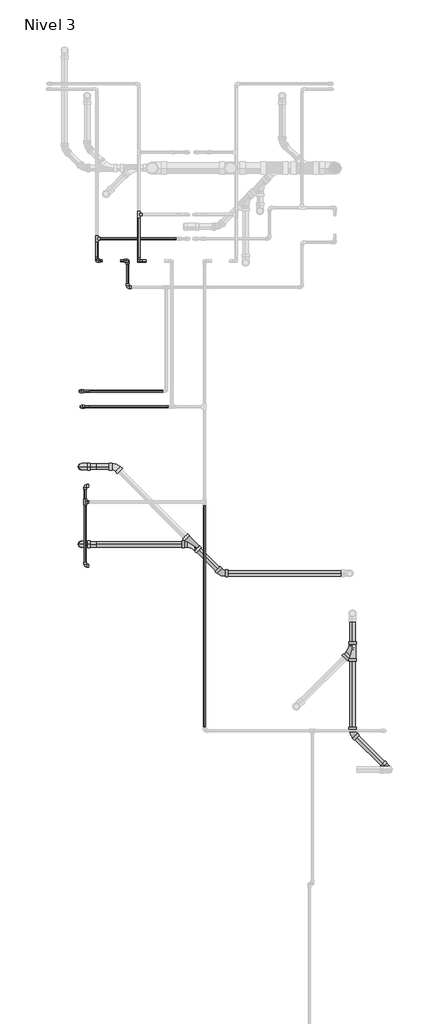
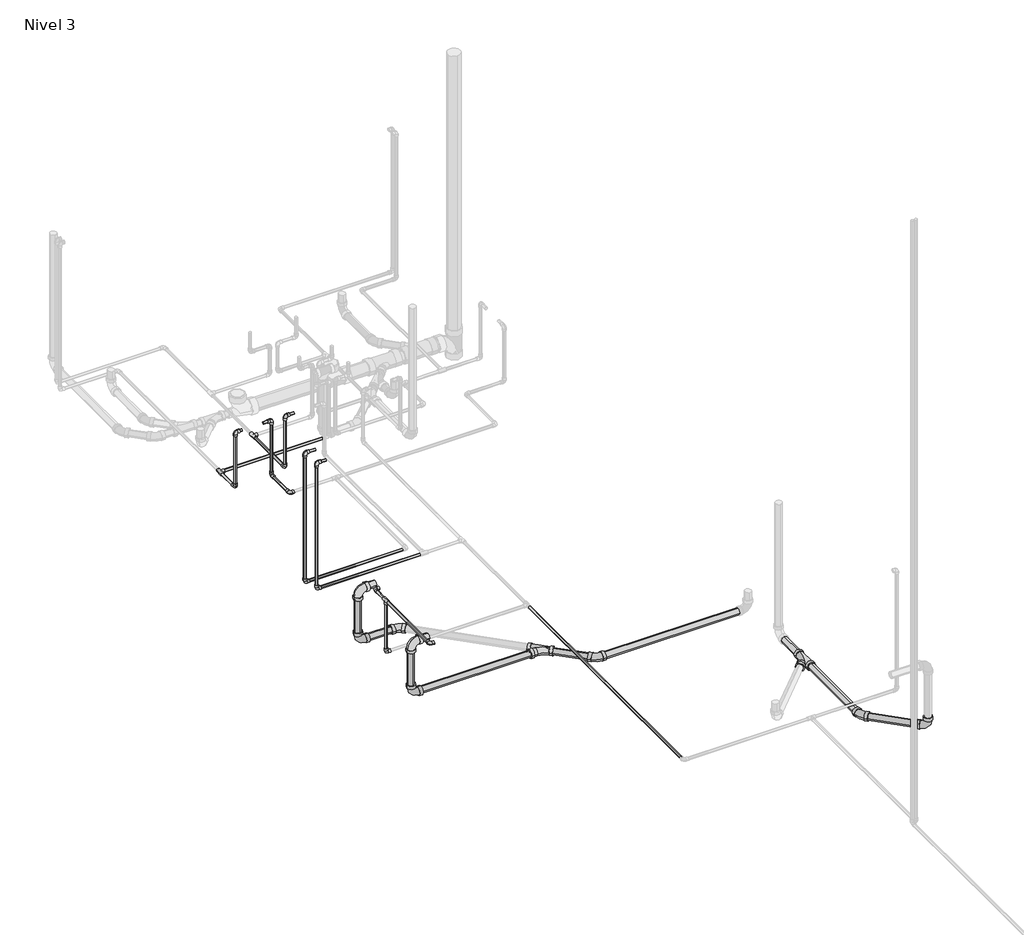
# One storey, part 6 of 9: 31 pipe segments, 27 pipe fittings.
"""IFC4 building model written with IfcOpenShell, lengths in millimetres."""

from ifc_helpers import new_model, si_unit, point, frame, frame_2d, origin, place, context, project, spatial, circle_curve, trimmed, segment, composite_curve, outline, extrude, transform, mapped, element, save
from components import pipe_fitting_ab418b84, pipe_fitting_0163322b, m_codo_pvc_serie_40_9ad74631, m_codo_pvc_serie_40_dwv1_5c0ec739, m_codo_pvc_serie_40_dwv1_6f1a2495

model = new_model("IFC4")

# Units and contexts
model_context = context("Model", 3, world=origin())
ifc_project = project(units=[si_unit("LENGTHUNIT", "METRE", prefix="MILLI")], contexts=[model_context])

# Site, building, storey
site = spatial("IfcSite", under=ifc_project)
building = spatial("IfcBuilding", under=site)
storey = spatial("IfcBuildingStorey", under=building, Name="Nivel 3", Elevation=5450.0)

# Pipe fittings
placement = place(None, origin())
pipe_fitting_shape = pipe_fitting_ab418b84(model_context)
element("IfcPipeFitting", 1, ObjectType="M_Te - PVC - Serie 40 : Estándar", at=placement, inside=storey, context=model_context, shape_type="MappedRepresentation", body=[
    mapped(pipe_fitting_shape, transform((3414.5674476, 13135.047678, 5850.0), x_axis=(0.0, -1.0, 0.0), y_axis=(0.0, 0.0, 1.0), z_axis=(-1.0, 0.0, 0.0))),
])
element("IfcPipeFitting", 2, ObjectType="M_Te - PVC - Serie 40 : Estándar", at=placement, inside=storey, context=model_context, shape_type="MappedRepresentation", body=[
    mapped(pipe_fitting_shape, transform((3940.052369, 15948.3784167, 5400.0), x_axis=(0.0, 1.0, 0.0), y_axis=(-1.0, 0.0, 0.0), z_axis=(0.0, 0.0, 1.0))),
])
element("IfcPipeFitting", 3, ObjectType="M_Te - PVC - Serie 40 : Estándar", at=placement, inside=storey, context=model_context, shape_type="MappedRepresentation", body=[
    mapped(pipe_fitting_shape, transform((3529.5674476, 15711.6215833, 5370.0), x_axis=(0.0, -1.0, 0.0), y_axis=(-1.0, 0.0, 0.0), z_axis=(0.0, 0.0, -1.0))),
])
pipe_fitting_2_shape = pipe_fitting_0163322b(model_context)
element("IfcPipeFitting", 4, ObjectType="M_Sanitario con te de reducción - PVC - Serie 40 - DWV : Estándar", at=placement, inside=storey, context=model_context, shape_type="MappedRepresentation", body=[
    mapped(pipe_fitting_2_shape, transform((6034.2551231, 11685.3518772, 5300.0), x_axis=(0.0, -1.0, 0.0), y_axis=(1.0, 0.0, 0.0), z_axis=(0.0, 0.0, 1.0))),
])
element("IfcPipeFitting", 5, ObjectType="M_Sanitario con te de reducción - PVC - Serie 40 - DWV : Estándar", at=placement, inside=storey, context=model_context, shape_type="MappedRepresentation", body=[
    mapped(pipe_fitting_2_shape, transform((4471.6264357, 12721.1279626, 5300.0), x_axis=(-0.7071067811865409, 0.7071067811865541, 0.0), y_axis=(0.7071067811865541, 0.7071067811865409, 0.0), z_axis=(0.0, 0.0, -1.0))),
])
m_codo_pvc_serie_40_shape = m_codo_pvc_serie_40_9ad74631(model_context)
element("IfcPipeFitting", 6, ObjectType="M_Codo - PVC - Serie 40 : Estándar", at=placement, inside=storey, context=model_context, shape_type="MappedRepresentation", body=[
    mapped(m_codo_pvc_serie_40_shape, transform((3414.5674476, 13135.047678, 5400.0), x_axis=(-1.0, 0.0, 0.0), y_axis=(0.0, 0.0, 1.0), z_axis=(0.0, 1.0, 0.0))),
])
element("IfcPipeFitting", 7, ObjectType="M_Codo - PVC - Serie 40 : Estándar", at=placement, inside=storey, context=model_context, shape_type="MappedRepresentation", body=[
    mapped(m_codo_pvc_serie_40_shape, transform((3414.5674476, 13295.047678, 5850.0), x_axis=(-1.0, 0.0, 0.0), y_axis=(0.0, -1.0, 0.0), z_axis=(0.0, 0.0, 1.0))),
])
element("IfcPipeFitting", 8, ObjectType="M_Codo - PVC - Serie 40 : Estándar", at=placement, inside=storey, context=model_context, shape_type="MappedRepresentation", body=[
    mapped(m_codo_pvc_serie_40_shape, transform((3414.5674476, 12509.5875218, 5850.0), x_axis=(0.0, -1.0, 0.0), y_axis=(1.0, 0.0, 0.0), z_axis=(0.0, 0.0, 1.0))),
])
element("IfcPipeFitting", 9, ObjectType="M_Codo - PVC - Serie 40 : Estándar", at=placement, inside=storey, context=model_context, shape_type="MappedRepresentation", body=[
    mapped(m_codo_pvc_serie_40_shape, transform((3940.052369, 15493.3784167, 5400.0), x_axis=(0.0, -1.0, 0.0), y_axis=(0.0, 0.0, 1.0), z_axis=(-1.0, 0.0, 0.0))),
])
element("IfcPipeFitting", 10, ObjectType="M_Codo - PVC - Serie 40 : Estándar", at=placement, inside=storey, context=model_context, shape_type="MappedRepresentation", body=[
    mapped(m_codo_pvc_serie_40_shape, transform((3940.052369, 15493.3784167, 5850.0), x_axis=(0.0, 0.0, 1.0), y_axis=(1.0, 0.0, 0.0), z_axis=(0.0, 1.0, 0.0))),
])
element("IfcPipeFitting", 11, ObjectType="M_Codo - PVC - Serie 40 : Estándar", at=placement, inside=storey, context=model_context, shape_type="MappedRepresentation", body=[
    mapped(m_codo_pvc_serie_40_shape, transform((3829.5674476, 15236.3878958, 5370.0), x_axis=(0.0, -1.0, 0.0), y_axis=(1.0, 0.0, 0.0), z_axis=(0.0, 0.0, 1.0))),
])
element("IfcPipeFitting", 12, ObjectType="M_Codo - PVC - Serie 40 : Estándar", at=placement, inside=storey, context=model_context, shape_type="MappedRepresentation", body=[
    mapped(m_codo_pvc_serie_40_shape, transform((3829.5674476, 15496.3878958, 5370.0), x_axis=(0.0, 1.0, 0.0), y_axis=(0.0, 0.0, 1.0), z_axis=(1.0, 0.0, 0.0))),
])
element("IfcPipeFitting", 13, ObjectType="M_Codo - PVC - Serie 40 : Estándar", at=placement, inside=storey, context=model_context, shape_type="MappedRepresentation", body=[
    mapped(m_codo_pvc_serie_40_shape, transform((3829.5674476, 15496.3878958, 5850.0), x_axis=(0.0, 0.0, 1.0), y_axis=(-1.0, 0.0, 0.0), z_axis=(0.0, -1.0, 0.0))),
])
element("IfcPipeFitting", 14, ObjectType="M_Codo - PVC - Serie 40 : Estándar", at=placement, inside=storey, context=model_context, shape_type="MappedRepresentation", body=[
    mapped(m_codo_pvc_serie_40_shape, transform((3529.5674476, 15496.3878958, 5850.0), x_axis=(-1.0, 0.0, 0.0), y_axis=(0.0, 0.0, -1.0), z_axis=(0.0, -1.0, 0.0))),
])
element("IfcPipeFitting", 15, ObjectType="M_Codo - PVC - Serie 40 : Estándar", at=placement, inside=storey, context=model_context, shape_type="MappedRepresentation", body=[
    mapped(m_codo_pvc_serie_40_shape, transform((3529.5674476, 15496.3878958, 5370.0), x_axis=(0.0, 0.0, -1.0), y_axis=(0.0, 1.0, 0.0), z_axis=(1.0, 0.0, 0.0))),
])
element("IfcPipeFitting", 16, ObjectType="M_Codo - PVC - Serie 40 : Estándar", at=placement, inside=storey, context=model_context, shape_type="MappedRepresentation", body=[
    mapped(m_codo_pvc_serie_40_shape, transform((3367.404854, 14218.3044589, 6500.0), x_axis=(-1.0, 0.0, 0.0), y_axis=(0.0, 0.0, -1.0), z_axis=(0.0, -1.0, 0.0))),
])
element("IfcPipeFitting", 17, ObjectType="M_Codo - PVC - Serie 40 : Estándar", at=placement, inside=storey, context=model_context, shape_type="MappedRepresentation", body=[
    mapped(m_codo_pvc_serie_40_shape, transform((3377.404854, 14068.3044589, 6500.0), x_axis=(-1.0, 0.0, 0.0), y_axis=(0.0, 0.0, -1.0), z_axis=(0.0, -1.0, 0.0))),
])
element("IfcPipeFitting", 18, ObjectType="M_Codo - PVC - Serie 40 : Estándar", at=placement, inside=storey, context=model_context, shape_type="MappedRepresentation", body=[
    mapped(m_codo_pvc_serie_40_shape, transform((3367.404854, 14218.3044589, 5370.0), x_axis=(0.0, 0.0, -1.0), y_axis=(1.0, 0.0, 0.0), z_axis=(0.0, -1.0, 0.0))),
])
element("IfcPipeFitting", 19, ObjectType="M_Codo - PVC - Serie 40 : Estándar", at=placement, inside=storey, context=model_context, shape_type="MappedRepresentation", body=[
    mapped(m_codo_pvc_serie_40_shape, transform((3377.404854, 14068.3044589, 5400.0), x_axis=(0.0, 0.0, -1.0), y_axis=(1.0, 0.0, 0.0), z_axis=(0.0, -1.0, 0.0))),
])
m_codo_pvc_serie_40_dwv1_shape = m_codo_pvc_serie_40_dwv1_5c0ec739(model_context)
element("IfcPipeFitting", 20, ObjectType="M_Codo - PVC - Serie 40 - DWV1 : Estándar 2", at=placement, inside=storey, context=model_context, shape_type="MappedRepresentation", body=[
    mapped(m_codo_pvc_serie_40_dwv1_shape, transform((6387.7966771, 10516.9594307, 5300.0), x_axis=(0.0, 0.0, -1.0), y_axis=(-0.7071067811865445, 0.7071067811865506, 0.0), z_axis=(0.7071067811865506, 0.7071067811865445, 0.0))),
])
element("IfcPipeFitting", 21, ObjectType="M_Codo - PVC - Serie 40 - DWV1 : Estándar 2", at=placement, inside=storey, context=model_context, shape_type="MappedRepresentation", body=[
    mapped(m_codo_pvc_serie_40_dwv1_shape, transform((3380.4956461, 13481.1279626, 5750.0), x_axis=(-1.0, 0.0, 0.0), y_axis=(0.0, 0.0, -1.0), z_axis=(0.0, -1.0, 0.0))),
])
element("IfcPipeFitting", 22, ObjectType="M_Codo - PVC - Serie 40 - DWV1 : Estándar 2", at=placement, inside=storey, context=model_context, shape_type="MappedRepresentation", body=[
    mapped(m_codo_pvc_serie_40_dwv1_shape, transform((3380.4956461, 13481.1279626, 5300.0), x_axis=(0.0, 0.0, -1.0), y_axis=(1.0, 0.0, 0.0), z_axis=(0.0, -1.0, 0.0))),
])
element("IfcPipeFitting", 23, ObjectType="M_Codo - PVC - Serie 40 - DWV1 : Estándar 2", at=placement, inside=storey, context=model_context, shape_type="MappedRepresentation", body=[
    mapped(m_codo_pvc_serie_40_dwv1_shape, transform((3380.4956461, 12721.1279626, 5750.0), x_axis=(-1.0, 0.0, 0.0), y_axis=(0.0, 0.0, -1.0), z_axis=(0.0, -1.0, 0.0))),
])
element("IfcPipeFitting", 24, ObjectType="M_Codo - PVC - Serie 40 - DWV1 : Estándar 2", at=placement, inside=storey, context=model_context, shape_type="MappedRepresentation", body=[
    mapped(m_codo_pvc_serie_40_dwv1_shape, transform((3380.4956461, 12721.1279626, 5300.0), x_axis=(0.0, 0.0, -1.0), y_axis=(1.0, 0.0, 0.0), z_axis=(0.0, -1.0, 0.0))),
])
m_codo_pvc_serie_40_dwv1_2_shape = m_codo_pvc_serie_40_dwv1_6f1a2495(model_context)
element("IfcPipeFitting", 25, ObjectType="M_Codo - PVC - Serie 40 - DWV1 : Estándar 2", at=placement, inside=storey, context=model_context, shape_type="MappedRepresentation", body=[
    mapped(m_codo_pvc_serie_40_dwv1_2_shape, transform((6034.2551231, 10870.5009847, 5300.0), x_axis=(0.0, -1.0, 0.0), y_axis=(1.0, 0.0, 0.0), z_axis=(0.0, 0.0, 1.0))),
])
element("IfcPipeFitting", 26, ObjectType="M_Codo - PVC - Serie 40 - DWV1 : Estándar 2", at=placement, inside=storey, context=model_context, shape_type="MappedRepresentation", body=[
    mapped(m_codo_pvc_serie_40_dwv1_2_shape, transform((3711.6264357, 13481.1279626, 5300.0), x_axis=(-0.7071067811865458, 0.7071067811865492, 0.0), y_axis=(-0.7071067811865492, -0.7071067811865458, 0.0), z_axis=(0.0, 0.0, 1.0))),
])
element("IfcPipeFitting", 27, ObjectType="M_Codo - PVC - Serie 40 - DWV1 : Estándar 2", at=placement, inside=storey, context=model_context, shape_type="MappedRepresentation", body=[
    mapped(m_codo_pvc_serie_40_dwv1_2_shape, transform((4755.8120302, 12436.942368, 5300.0), x_axis=(0.7071067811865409, -0.7071067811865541, 0.0), y_axis=(0.7071067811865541, 0.7071067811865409, 0.0), z_axis=(0.0, 0.0, 1.0))),
])

# Pipe segments
element("IfcPipeSegment", 28, ObjectType="Tuberia PVC Agua Fria", at=placement, inside=storey, context=model_context, shape_type="SweptSolid", body=[
    extrude(outline(composite_curve([segment(trimmed(circle_curve(frame_2d((5400.0, 4584.5674476)), 10.31875), [point((5400.0, 4594.8861976))], [point((5410.31875, 4584.5674476))], False, "CARTESIAN"), True, "CONTINUOUS"), segment(trimmed(circle_curve(frame_2d((5400.0, 4584.5674476)), 10.31875), [point((5410.31875, 4584.5674476))], [point((5400.0, 4574.2486976))], False, "CARTESIAN"), True, "CONTINUOUS"), segment(trimmed(circle_curve(frame_2d((5400.0, 4584.5674476)), 10.31875), [point((5400.0, 4574.2486976))], [point((5389.68125, 4584.5674476))], False, "CARTESIAN"), True, "CONTINUOUS"), segment(trimmed(circle_curve(frame_2d((5400.0, 4584.5674476)), 10.31875), [point((5389.68125, 4584.5674476))], [point((5400.0, 4594.8861976))], False, "CARTESIAN"), True, "CONTINUOUS")], self_intersect=False)), frame((0.0, 10930.4191394, 0.0), z_axis=(0.0, 1.0, 0.0), x_axis=(0.0, 0.0, 1.0)), (0.0, 0.0, 1.0), 2174.1683824),
])
element("IfcPipeSegment", 29, ObjectType="Tuberia PVC Agua Fria", at=placement, inside=storey, context=model_context, shape_type="SweptSolid", body=[
    extrude(outline(composite_curve([segment(trimmed(circle_curve(frame_2d((5850.0, 3414.5674476)), 10.31875), [point((5850.0, 3424.8861976))], [point((5860.31875, 3414.5674476))], False, "CARTESIAN"), True, "CONTINUOUS"), segment(trimmed(circle_curve(frame_2d((5850.0, 3414.5674476)), 10.31875), [point((5860.31875, 3414.5674476))], [point((5850.0, 3404.2486976))], False, "CARTESIAN"), True, "CONTINUOUS"), segment(trimmed(circle_curve(frame_2d((5850.0, 3414.5674476)), 10.31875), [point((5850.0, 3404.2486976))], [point((5839.68125, 3414.5674476))], False, "CARTESIAN"), True, "CONTINUOUS"), segment(trimmed(circle_curve(frame_2d((5850.0, 3414.5674476)), 10.31875), [point((5839.68125, 3414.5674476))], [point((5850.0, 3424.8861976))], False, "CARTESIAN"), True, "CONTINUOUS")], self_intersect=False)), frame((0.0, 13165.5078343, 0.0), z_axis=(0.0, 1.0, 0.0), x_axis=(0.0, 0.0, 1.0)), (0.0, 0.0, 1.0), 96.1388438),
])
element("IfcPipeSegment", 30, ObjectType="Tuberia PVC Agua Fria", at=placement, inside=storey, context=model_context, shape_type="SweptSolid", body=[
    extrude(outline(composite_curve([segment(trimmed(circle_curve(frame_2d((3414.5674476, 13135.047678)), 10.31875), [point((3404.2486976, 13135.047678))], [point((3414.5674476, 13145.366428))], False, "CARTESIAN"), True, "CONTINUOUS"), segment(trimmed(circle_curve(frame_2d((3414.5674476, 13135.047678)), 10.31875), [point((3414.5674476, 13145.366428))], [point((3424.8861976, 13135.047678))], False, "CARTESIAN"), True, "CONTINUOUS"), segment(trimmed(circle_curve(frame_2d((3414.5674476, 13135.047678)), 10.31875), [point((3424.8861976, 13135.047678))], [point((3414.5674476, 13124.728928))], False, "CARTESIAN"), True, "CONTINUOUS"), segment(trimmed(circle_curve(frame_2d((3414.5674476, 13135.047678)), 10.31875), [point((3414.5674476, 13124.728928))], [point((3404.2486976, 13135.047678))], False, "CARTESIAN"), True, "CONTINUOUS")], self_intersect=False)), frame((0.0, 0.0, 5433.401), z_axis=(0.0, 0.0, 1.0), x_axis=(1.0, 0.0, 0.0)), (0.0, 0.0, 1.0), 386.1388438),
])
element("IfcPipeSegment", 31, ObjectType="Tuberia PVC Agua Fria", at=placement, inside=storey, context=model_context, shape_type="SweptSolid", body=[
    extrude(outline(composite_curve([segment(trimmed(circle_curve(frame_2d((5850.0, 3414.5674476)), 10.31875), [point((5850.0, 3404.2486976))], [point((5839.68125, 3414.5674476))], False, "CARTESIAN"), True, "CONTINUOUS"), segment(trimmed(circle_curve(frame_2d((5850.0, 3414.5674476)), 10.31875), [point((5839.68125, 3414.5674476))], [point((5850.0, 3424.8861976))], False, "CARTESIAN"), True, "CONTINUOUS"), segment(trimmed(circle_curve(frame_2d((5850.0, 3414.5674476)), 10.31875), [point((5850.0, 3424.8861976))], [point((5860.31875, 3414.5674476))], False, "CARTESIAN"), True, "CONTINUOUS"), segment(trimmed(circle_curve(frame_2d((5850.0, 3414.5674476)), 10.31875), [point((5860.31875, 3414.5674476))], [point((5850.0, 3404.2486976))], False, "CARTESIAN"), True, "CONTINUOUS")], self_intersect=False)), frame((0.0, 12542.9885218, 0.0), z_axis=(0.0, 1.0, 0.0), x_axis=(0.0, 0.0, 1.0)), (0.0, 0.0, 1.0), 561.599),
])
element("IfcPipeSegment", 32, ObjectType="Tuberia PVC Agua Fria", at=placement, inside=storey, context=model_context, shape_type="SweptSolid", body=[
    extrude(outline(composite_curve([segment(trimmed(circle_curve(frame_2d((5400.0, 3940.052369)), 10.31875), [point((5400.0, 3929.733619))], [point((5389.68125, 3940.052369))], False, "CARTESIAN"), True, "CONTINUOUS"), segment(trimmed(circle_curve(frame_2d((5400.0, 3940.052369)), 10.31875), [point((5389.68125, 3940.052369))], [point((5400.0, 3950.371119))], False, "CARTESIAN"), True, "CONTINUOUS"), segment(trimmed(circle_curve(frame_2d((5400.0, 3940.052369)), 10.31875), [point((5400.0, 3950.371119))], [point((5410.31875, 3940.052369))], False, "CARTESIAN"), True, "CONTINUOUS"), segment(trimmed(circle_curve(frame_2d((5400.0, 3940.052369)), 10.31875), [point((5410.31875, 3940.052369))], [point((5400.0, 3929.733619))], False, "CARTESIAN"), True, "CONTINUOUS")], self_intersect=False)), frame((0.0, 15526.7794167, 0.0), z_axis=(0.0, 1.0, 0.0), x_axis=(0.0, 0.0, 1.0)), (0.0, 0.0, 1.0), 391.1388438),
])
element("IfcPipeSegment", 33, ObjectType="Tuberia PVC Agua Fria", at=placement, inside=storey, context=model_context, shape_type="SweptSolid", body=[
    extrude(outline(composite_curve([segment(trimmed(circle_curve(frame_2d((3940.052369, 15493.3784167)), 10.31875), [point((3929.733619, 15493.3784167))], [point((3940.052369, 15503.6971667))], False, "CARTESIAN"), True, "CONTINUOUS"), segment(trimmed(circle_curve(frame_2d((3940.052369, 15493.3784167)), 10.31875), [point((3940.052369, 15503.6971667))], [point((3950.371119, 15493.3784167))], False, "CARTESIAN"), True, "CONTINUOUS"), segment(trimmed(circle_curve(frame_2d((3940.052369, 15493.3784167)), 10.31875), [point((3950.371119, 15493.3784167))], [point((3940.052369, 15483.0596667))], False, "CARTESIAN"), True, "CONTINUOUS"), segment(trimmed(circle_curve(frame_2d((3940.052369, 15493.3784167)), 10.31875), [point((3940.052369, 15483.0596667))], [point((3929.733619, 15493.3784167))], False, "CARTESIAN"), True, "CONTINUOUS")], self_intersect=False)), frame((0.0, 0.0, 5433.401), z_axis=(0.0, 0.0, 1.0), x_axis=(1.0, 0.0, 0.0)), (0.0, 0.0, 1.0), 383.198),
])
element("IfcPipeSegment", 34, ObjectType="Tuberia PVC Agua Fria", at=placement, inside=storey, context=model_context, shape_type="SweptSolid", body=[
    extrude(outline(composite_curve([segment(trimmed(circle_curve(frame_2d((15493.3784167, 5850.0)), 10.31875), [point((15483.0596667, 5850.0))], [point((15493.3784167, 5860.31875))], False, "CARTESIAN"), True, "CONTINUOUS"), segment(trimmed(circle_curve(frame_2d((15493.3784167, 5850.0)), 10.31875), [point((15493.3784167, 5860.31875))], [point((15503.6971667, 5850.0))], False, "CARTESIAN"), True, "CONTINUOUS"), segment(trimmed(circle_curve(frame_2d((15493.3784167, 5850.0)), 10.31875), [point((15503.6971667, 5850.0))], [point((15493.3784167, 5839.68125))], False, "CARTESIAN"), True, "CONTINUOUS"), segment(trimmed(circle_curve(frame_2d((15493.3784167, 5850.0)), 10.31875), [point((15493.3784167, 5839.68125))], [point((15483.0596667, 5850.0))], False, "CARTESIAN"), True, "CONTINUOUS")], self_intersect=False)), frame((3973.453369, 0.0, 0.0), z_axis=(1.0, 0.0, 0.0), x_axis=(0.0, 1.0, 0.0)), (0.0, 0.0, 1.0), 39.3897748),
])
element("IfcPipeSegment", 35, ObjectType="Tuberia PVC Agua Fria", at=placement, inside=storey, context=model_context, shape_type="SweptSolid", body=[
    extrude(outline(composite_curve([segment(trimmed(circle_curve(frame_2d((14068.3044589, 6500.0)), 10.31875), [point((14078.6232089, 6500.0))], [point((14068.3044589, 6489.68125))], False, "CARTESIAN"), True, "CONTINUOUS"), segment(trimmed(circle_curve(frame_2d((14068.3044589, 6500.0)), 10.31875), [point((14068.3044589, 6489.68125))], [point((14057.9857089, 6500.0))], False, "CARTESIAN"), True, "CONTINUOUS"), segment(trimmed(circle_curve(frame_2d((14068.3044589, 6500.0)), 10.31875), [point((14057.9857089, 6500.0))], [point((14068.3044589, 6510.31875))], False, "CARTESIAN"), True, "CONTINUOUS"), segment(trimmed(circle_curve(frame_2d((14068.3044589, 6500.0)), 10.31875), [point((14068.3044589, 6510.31875))], [point((14078.6232089, 6500.0))], False, "CARTESIAN"), True, "CONTINUOUS")], self_intersect=False)), frame((3410.805854, 0.0, 0.0), z_axis=(1.0, 0.0, 0.0), x_axis=(0.0, 1.0, 0.0)), (0.0, 0.0, 1.0), 41.599),
])
element("IfcPipeSegment", 36, ObjectType="Tuberia PVC Agua Fria", at=placement, inside=storey, context=model_context, shape_type="SweptSolid", body=[
    extrude(outline(composite_curve([segment(trimmed(circle_curve(frame_2d((14068.3044589, 5400.0)), 10.31875), [point((14078.6232089, 5400.0))], [point((14068.3044589, 5389.68125))], False, "CARTESIAN"), True, "CONTINUOUS"), segment(trimmed(circle_curve(frame_2d((14068.3044589, 5400.0)), 10.31875), [point((14068.3044589, 5389.68125))], [point((14057.9857089, 5400.0))], False, "CARTESIAN"), True, "CONTINUOUS"), segment(trimmed(circle_curve(frame_2d((14068.3044589, 5400.0)), 10.31875), [point((14057.9857089, 5400.0))], [point((14068.3044589, 5410.31875))], False, "CARTESIAN"), True, "CONTINUOUS"), segment(trimmed(circle_curve(frame_2d((14068.3044589, 5400.0)), 10.31875), [point((14068.3044589, 5410.31875))], [point((14078.6232089, 5400.0))], False, "CARTESIAN"), True, "CONTINUOUS")], self_intersect=False)), frame((3410.805854, 0.0, 0.0), z_axis=(1.0, 0.0, 0.0), x_axis=(0.0, 1.0, 0.0)), (0.0, 0.0, 1.0), 822.3679083),
])
element("IfcPipeSegment", 37, ObjectType="Tuberia PVC Agua Fria", at=placement, inside=storey, context=model_context, shape_type="SweptSolid", body=[
    extrude(outline(composite_curve([segment(trimmed(circle_curve(frame_2d((3377.404854, 14068.3044589)), 10.31875), [point((3387.723604, 14068.3044589))], [point((3377.404854, 14057.9857089))], False, "CARTESIAN"), True, "CONTINUOUS"), segment(trimmed(circle_curve(frame_2d((3377.404854, 14068.3044589)), 10.31875), [point((3377.404854, 14057.9857089))], [point((3367.086104, 14068.3044589))], False, "CARTESIAN"), True, "CONTINUOUS"), segment(trimmed(circle_curve(frame_2d((3377.404854, 14068.3044589)), 10.31875), [point((3367.086104, 14068.3044589))], [point((3377.404854, 14078.6232089))], False, "CARTESIAN"), True, "CONTINUOUS"), segment(trimmed(circle_curve(frame_2d((3377.404854, 14068.3044589)), 10.31875), [point((3377.404854, 14078.6232089))], [point((3387.723604, 14068.3044589))], False, "CARTESIAN"), True, "CONTINUOUS")], self_intersect=False)), frame((0.0, 0.0, 5433.401), z_axis=(0.0, 0.0, 1.0), x_axis=(1.0, 0.0, 0.0)), (0.0, 0.0, 1.0), 1033.198),
])
element("IfcPipeSegment", 38, ObjectType="Tuberia PVC Agua Caliente", at=placement, inside=storey, context=model_context, shape_type="SweptSolid", body=[
    extrude(outline(composite_curve([segment(trimmed(circle_curve(frame_2d((5370.0, 3829.5674476)), 10.31875), [point((5370.0, 3839.8861976))], [point((5380.31875, 3829.5674476))], False, "CARTESIAN"), True, "CONTINUOUS"), segment(trimmed(circle_curve(frame_2d((5370.0, 3829.5674476)), 10.31875), [point((5380.31875, 3829.5674476))], [point((5370.0, 3819.2486976))], False, "CARTESIAN"), True, "CONTINUOUS"), segment(trimmed(circle_curve(frame_2d((5370.0, 3829.5674476)), 10.31875), [point((5370.0, 3819.2486976))], [point((5359.68125, 3829.5674476))], False, "CARTESIAN"), True, "CONTINUOUS"), segment(trimmed(circle_curve(frame_2d((5370.0, 3829.5674476)), 10.31875), [point((5359.68125, 3829.5674476))], [point((5370.0, 3839.8861976))], False, "CARTESIAN"), True, "CONTINUOUS")], self_intersect=False)), frame((0.0, 15269.7888958, 0.0), z_axis=(0.0, 1.0, 0.0), x_axis=(0.0, 0.0, 1.0)), (0.0, 0.0, 1.0), 193.198),
])
element("IfcPipeSegment", 39, ObjectType="Tuberia PVC Agua Caliente", at=placement, inside=storey, context=model_context, shape_type="SweptSolid", body=[
    extrude(outline(composite_curve([segment(trimmed(circle_curve(frame_2d((15496.3878958, 5850.0)), 10.31875), [point((15506.7066458, 5850.0))], [point((15496.3878958, 5839.68125))], False, "CARTESIAN"), True, "CONTINUOUS"), segment(trimmed(circle_curve(frame_2d((15496.3878958, 5850.0)), 10.31875), [point((15496.3878958, 5839.68125))], [point((15486.0691458, 5850.0))], False, "CARTESIAN"), True, "CONTINUOUS"), segment(trimmed(circle_curve(frame_2d((15496.3878958, 5850.0)), 10.31875), [point((15486.0691458, 5850.0))], [point((15496.3878958, 5860.31875))], False, "CARTESIAN"), True, "CONTINUOUS"), segment(trimmed(circle_curve(frame_2d((15496.3878958, 5850.0)), 10.31875), [point((15496.3878958, 5860.31875))], [point((15506.7066458, 5850.0))], False, "CARTESIAN"), True, "CONTINUOUS")], self_intersect=False)), frame((3562.9684476, 0.0, 0.0), z_axis=(1.0, 0.0, 0.0), x_axis=(0.0, 1.0, 0.0)), (0.0, 0.0, 1.0), 19.5772433),
])
element("IfcPipeSegment", 40, ObjectType="Tuberia PVC Agua Caliente", at=placement, inside=storey, context=model_context, shape_type="SweptSolid", body=[
    extrude(outline(composite_curve([segment(trimmed(circle_curve(frame_2d((3829.5674476, 15496.3878958)), 10.31875), [point((3819.2486976, 15496.3878958))], [point((3829.5674476, 15506.7066458))], False, "CARTESIAN"), True, "CONTINUOUS"), segment(trimmed(circle_curve(frame_2d((3829.5674476, 15496.3878958)), 10.31875), [point((3829.5674476, 15506.7066458))], [point((3839.8861976, 15496.3878958))], False, "CARTESIAN"), True, "CONTINUOUS"), segment(trimmed(circle_curve(frame_2d((3829.5674476, 15496.3878958)), 10.31875), [point((3839.8861976, 15496.3878958))], [point((3829.5674476, 15486.0691458))], False, "CARTESIAN"), True, "CONTINUOUS"), segment(trimmed(circle_curve(frame_2d((3829.5674476, 15496.3878958)), 10.31875), [point((3829.5674476, 15486.0691458))], [point((3819.2486976, 15496.3878958))], False, "CARTESIAN"), True, "CONTINUOUS")], self_intersect=False)), frame((0.0, 0.0, 5403.401), z_axis=(0.0, 0.0, 1.0), x_axis=(1.0, 0.0, 0.0)), (0.0, 0.0, 1.0), 413.198),
])
element("IfcPipeSegment", 41, ObjectType="Tuberia PVC Agua Caliente", at=placement, inside=storey, context=model_context, shape_type="SweptSolid", body=[
    extrude(outline(composite_curve([segment(trimmed(circle_curve(frame_2d((3529.5674476, 15496.3878958)), 10.31875), [point((3539.8861976, 15496.3878958))], [point((3529.5674476, 15486.0691458))], False, "CARTESIAN"), True, "CONTINUOUS"), segment(trimmed(circle_curve(frame_2d((3529.5674476, 15496.3878958)), 10.31875), [point((3529.5674476, 15486.0691458))], [point((3519.2486976, 15496.3878958))], False, "CARTESIAN"), True, "CONTINUOUS"), segment(trimmed(circle_curve(frame_2d((3529.5674476, 15496.3878958)), 10.31875), [point((3519.2486976, 15496.3878958))], [point((3529.5674476, 15506.7066458))], False, "CARTESIAN"), True, "CONTINUOUS"), segment(trimmed(circle_curve(frame_2d((3529.5674476, 15496.3878958)), 10.31875), [point((3529.5674476, 15506.7066458))], [point((3539.8861976, 15496.3878958))], False, "CARTESIAN"), True, "CONTINUOUS")], self_intersect=False)), frame((0.0, 0.0, 5403.401), z_axis=(0.0, 0.0, 1.0), x_axis=(1.0, 0.0, 0.0)), (0.0, 0.0, 1.0), 413.198),
])
element("IfcPipeSegment", 42, ObjectType="Tuberia PVC Agua Caliente", at=placement, inside=storey, context=model_context, shape_type="SweptSolid", body=[
    extrude(outline(composite_curve([segment(trimmed(circle_curve(frame_2d((15711.6215833, 5370.0)), 10.31875), [point((15721.9403333, 5370.0))], [point((15711.6215833, 5359.68125))], False, "CARTESIAN"), True, "CONTINUOUS"), segment(trimmed(circle_curve(frame_2d((15711.6215833, 5370.0)), 10.31875), [point((15711.6215833, 5359.68125))], [point((15701.3028333, 5370.0))], False, "CARTESIAN"), True, "CONTINUOUS"), segment(trimmed(circle_curve(frame_2d((15711.6215833, 5370.0)), 10.31875), [point((15701.3028333, 5370.0))], [point((15711.6215833, 5380.31875))], False, "CARTESIAN"), True, "CONTINUOUS"), segment(trimmed(circle_curve(frame_2d((15711.6215833, 5370.0)), 10.31875), [point((15711.6215833, 5380.31875))], [point((15721.9403333, 5370.0))], False, "CARTESIAN"), True, "CONTINUOUS")], self_intersect=False)), frame((3560.0276039, 0.0, 0.0), z_axis=(1.0, 0.0, 0.0), x_axis=(0.0, 1.0, 0.0)), (0.0, 0.0, 1.0), 835.3737652),
])
element("IfcPipeSegment", 43, ObjectType="Tuberia PVC Agua Caliente", at=placement, inside=storey, context=model_context, shape_type="SweptSolid", body=[
    extrude(outline(composite_curve([segment(trimmed(circle_curve(frame_2d((5370.0, 3529.5674476)), 10.31875), [point((5370.0, 3539.8861976))], [point((5380.31875, 3529.5674476))], False, "CARTESIAN"), True, "CONTINUOUS"), segment(trimmed(circle_curve(frame_2d((5370.0, 3529.5674476)), 10.31875), [point((5380.31875, 3529.5674476))], [point((5370.0, 3519.2486976))], False, "CARTESIAN"), True, "CONTINUOUS"), segment(trimmed(circle_curve(frame_2d((5370.0, 3529.5674476)), 10.31875), [point((5370.0, 3519.2486976))], [point((5359.68125, 3529.5674476))], False, "CARTESIAN"), True, "CONTINUOUS"), segment(trimmed(circle_curve(frame_2d((5370.0, 3529.5674476)), 10.31875), [point((5359.68125, 3529.5674476))], [point((5370.0, 3539.8861976))], False, "CARTESIAN"), True, "CONTINUOUS")], self_intersect=False)), frame((0.0, 15529.7888958, 0.0), z_axis=(0.0, 1.0, 0.0), x_axis=(0.0, 0.0, 1.0)), (0.0, 0.0, 1.0), 151.3725313),
])
element("IfcPipeSegment", 44, ObjectType="Tuberia PVC Agua Caliente", at=placement, inside=storey, context=model_context, shape_type="SweptSolid", body=[
    extrude(outline(composite_curve([segment(trimmed(circle_curve(frame_2d((15496.3878958, 5850.0)), 10.31875), [point((15506.7066458, 5850.0))], [point((15496.3878958, 5839.68125))], False, "CARTESIAN"), True, "CONTINUOUS"), segment(trimmed(circle_curve(frame_2d((15496.3878958, 5850.0)), 10.31875), [point((15496.3878958, 5839.68125))], [point((15486.0691458, 5850.0))], False, "CARTESIAN"), True, "CONTINUOUS"), segment(trimmed(circle_curve(frame_2d((15496.3878958, 5850.0)), 10.31875), [point((15486.0691458, 5850.0))], [point((15496.3878958, 5860.31875))], False, "CARTESIAN"), True, "CONTINUOUS"), segment(trimmed(circle_curve(frame_2d((15496.3878958, 5850.0)), 10.31875), [point((15496.3878958, 5860.31875))], [point((15506.7066458, 5850.0))], False, "CARTESIAN"), True, "CONTINUOUS")], self_intersect=False)), frame((3760.5456909, 0.0, 0.0), z_axis=(1.0, 0.0, 0.0), x_axis=(0.0, 1.0, 0.0)), (0.0, 0.0, 1.0), 35.6207567),
])
element("IfcPipeSegment", 45, ObjectType="Tuberia PVC Agua Caliente", at=placement, inside=storey, context=model_context, shape_type="SweptSolid", body=[
    extrude(outline(composite_curve([segment(trimmed(circle_curve(frame_2d((14218.3044589, 6500.0)), 10.31875), [point((14228.6232089, 6500.0))], [point((14218.3044589, 6489.68125))], False, "CARTESIAN"), True, "CONTINUOUS"), segment(trimmed(circle_curve(frame_2d((14218.3044589, 6500.0)), 10.31875), [point((14218.3044589, 6489.68125))], [point((14207.9857089, 6500.0))], False, "CARTESIAN"), True, "CONTINUOUS"), segment(trimmed(circle_curve(frame_2d((14218.3044589, 6500.0)), 10.31875), [point((14207.9857089, 6500.0))], [point((14218.3044589, 6510.31875))], False, "CARTESIAN"), True, "CONTINUOUS"), segment(trimmed(circle_curve(frame_2d((14218.3044589, 6500.0)), 10.31875), [point((14218.3044589, 6510.31875))], [point((14228.6232089, 6500.0))], False, "CARTESIAN"), True, "CONTINUOUS")], self_intersect=False)), frame((3400.805854, 0.0, 0.0), z_axis=(1.0, 0.0, 0.0), x_axis=(0.0, 1.0, 0.0)), (0.0, 0.0, 1.0), 51.599),
])
element("IfcPipeSegment", 46, ObjectType="Tuberia PVC Agua Caliente", at=placement, inside=storey, context=model_context, shape_type="SweptSolid", body=[
    extrude(outline(composite_curve([segment(trimmed(circle_curve(frame_2d((14218.3044589, 5370.0)), 10.31875), [point((14228.6232089, 5370.0))], [point((14218.3044589, 5359.68125))], False, "CARTESIAN"), True, "CONTINUOUS"), segment(trimmed(circle_curve(frame_2d((14218.3044589, 5370.0)), 10.31875), [point((14218.3044589, 5359.68125))], [point((14207.9857089, 5370.0))], False, "CARTESIAN"), True, "CONTINUOUS"), segment(trimmed(circle_curve(frame_2d((14218.3044589, 5370.0)), 10.31875), [point((14207.9857089, 5370.0))], [point((14218.3044589, 5380.31875))], False, "CARTESIAN"), True, "CONTINUOUS"), segment(trimmed(circle_curve(frame_2d((14218.3044589, 5370.0)), 10.31875), [point((14218.3044589, 5380.31875))], [point((14228.6232089, 5370.0))], False, "CARTESIAN"), True, "CONTINUOUS")], self_intersect=False)), frame((3400.805854, 0.0, 0.0), z_axis=(1.0, 0.0, 0.0), x_axis=(0.0, 1.0, 0.0)), (0.0, 0.0, 1.0), 775.3605937),
])
element("IfcPipeSegment", 47, ObjectType="Tuberia PVC Agua Caliente", at=placement, inside=storey, context=model_context, shape_type="SweptSolid", body=[
    extrude(outline(composite_curve([segment(trimmed(circle_curve(frame_2d((3367.404854, 14218.3044589)), 10.31875), [point((3377.723604, 14218.3044589))], [point((3367.404854, 14207.9857089))], False, "CARTESIAN"), True, "CONTINUOUS"), segment(trimmed(circle_curve(frame_2d((3367.404854, 14218.3044589)), 10.31875), [point((3367.404854, 14207.9857089))], [point((3357.086104, 14218.3044589))], False, "CARTESIAN"), True, "CONTINUOUS"), segment(trimmed(circle_curve(frame_2d((3367.404854, 14218.3044589)), 10.31875), [point((3357.086104, 14218.3044589))], [point((3367.404854, 14228.6232089))], False, "CARTESIAN"), True, "CONTINUOUS"), segment(trimmed(circle_curve(frame_2d((3367.404854, 14218.3044589)), 10.31875), [point((3367.404854, 14228.6232089))], [point((3377.723604, 14218.3044589))], False, "CARTESIAN"), True, "CONTINUOUS")], self_intersect=False)), frame((0.0, 0.0, 5403.401), z_axis=(0.0, 0.0, 1.0), x_axis=(1.0, 0.0, 0.0)), (0.0, 0.0, 1.0), 1063.198),
])
element("IfcPipeSegment", 48, ObjectType="Tuberia PVC Sanitario", at=placement, inside=storey, context=model_context, shape_type="SweptSolid", body=[
    extrude(outline(composite_curve([segment(trimmed(circle_curve(frame_2d((0.0, -26.9875)), 26.9875), [point((-26.9875, -26.9875))], [point((0.0, 0.0))], False, "CARTESIAN"), True, "CONTINUOUS"), segment(trimmed(circle_curve(frame_2d((0.0, -26.9875)), 26.9875), [point((0.0, 0.0))], [point((26.9875001, -26.9875))], False, "CARTESIAN"), True, "CONTINUOUS"), segment(trimmed(circle_curve(frame_2d((0.0, -26.9875)), 26.9875), [point((26.9875001, -26.9875))], [point((0.0, -53.975))], False, "CARTESIAN"), True, "CONTINUOUS"), segment(trimmed(circle_curve(frame_2d((0.0, -26.9875)), 26.9875), [point((0.0, -53.975))], [point((-26.9875, -26.9875))], False, "CARTESIAN"), True, "CONTINUOUS")], self_intersect=False)), frame((6329.430625, 10575.3254828, 5273.0125), z_axis=(-0.7071067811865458, 0.7071067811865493, 0.0), x_axis=(0.7071067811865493, 0.7071067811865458, 0.0)), (0.0, 0.0, 1.0), 357.0130106),
])
element("IfcPipeSegment", 49, ObjectType="Tuberia PVC Sanitario", at=placement, inside=storey, context=model_context, shape_type="SweptSolid", body=[
    extrude(outline(composite_curve([segment(trimmed(circle_curve(frame_2d((5300.0, 6034.2551231)), 26.9875), [point((5300.0, 6061.2426231))], [point((5326.9875, 6034.2551231))], False, "CARTESIAN"), True, "CONTINUOUS"), segment(trimmed(circle_curve(frame_2d((5300.0, 6034.2551231)), 26.9875), [point((5326.9875, 6034.2551231))], [point((5300.0, 6007.2676231))], False, "CARTESIAN"), True, "CONTINUOUS"), segment(trimmed(circle_curve(frame_2d((5300.0, 6034.2551231)), 26.9875), [point((5300.0, 6007.2676231))], [point((5273.0125, 6034.2551231))], False, "CARTESIAN"), True, "CONTINUOUS"), segment(trimmed(circle_curve(frame_2d((5300.0, 6034.2551231)), 26.9875), [point((5273.0125, 6034.2551231))], [point((5300.0, 6061.2426231))], False, "CARTESIAN"), True, "CONTINUOUS")], self_intersect=False)), frame((0.0, 11765.286344, 0.0), z_axis=(0.0, 1.0, 0.0), x_axis=(0.0, 0.0, 1.0)), (0.0, 0.0, 1.0), 196.5136392),
])
element("IfcPipeSegment", 50, ObjectType="Tuberia PVC Sanitario", at=placement, inside=storey, context=model_context, shape_type="SweptSolid", body=[
    extrude(outline(composite_curve([segment(trimmed(circle_curve(frame_2d((5300.0, 6034.2551231)), 26.9875), [point((5300.0, 6061.2426231))], [point((5326.9875, 6034.2551231))], False, "CARTESIAN"), True, "CONTINUOUS"), segment(trimmed(circle_curve(frame_2d((5300.0, 6034.2551231)), 26.9875), [point((5326.9875, 6034.2551231))], [point((5300.0, 6007.2676231))], False, "CARTESIAN"), True, "CONTINUOUS"), segment(trimmed(circle_curve(frame_2d((5300.0, 6034.2551231)), 26.9875), [point((5300.0, 6007.2676231))], [point((5273.0125, 6034.2551231))], False, "CARTESIAN"), True, "CONTINUOUS"), segment(trimmed(circle_curve(frame_2d((5300.0, 6034.2551231)), 26.9875), [point((5273.0125, 6034.2551231))], [point((5300.0, 6061.2426231))], False, "CARTESIAN"), True, "CONTINUOUS")], self_intersect=False)), frame((0.0, 10930.9291722, 0.0), z_axis=(0.0, 1.0, 0.0), x_axis=(0.0, 0.0, 1.0)), (0.0, 0.0, 1.0), 645.5850982),
])
element("IfcPipeSegment", 51, ObjectType="Tuberia PVC Sanitario", at=placement, inside=storey, context=model_context, shape_type="SweptSolid", body=[
    extrude(outline(composite_curve([segment(trimmed(circle_curve(frame_2d((13481.1279626, 5750.0)), 26.9875), [point((13508.1154626, 5750.0))], [point((13481.1279626, 5723.0125))], False, "CARTESIAN"), True, "CONTINUOUS"), segment(trimmed(circle_curve(frame_2d((13481.1279626, 5750.0)), 26.9875), [point((13481.1279626, 5723.0125))], [point((13454.1404626, 5750.0))], False, "CARTESIAN"), True, "CONTINUOUS"), segment(trimmed(circle_curve(frame_2d((13481.1279626, 5750.0)), 26.9875), [point((13454.1404626, 5750.0))], [point((13481.1279626, 5776.9875))], False, "CARTESIAN"), True, "CONTINUOUS"), segment(trimmed(circle_curve(frame_2d((13481.1279626, 5750.0)), 26.9875), [point((13481.1279626, 5776.9875))], [point((13508.1154626, 5750.0))], False, "CARTESIAN"), True, "CONTINUOUS")], self_intersect=False)), frame((3463.0377086, 0.0, 0.0), z_axis=(1.0, 0.0, 0.0), x_axis=(0.0, 1.0, 0.0)), (0.0, 0.0, 1.0), 57.4579375),
])
element("IfcPipeSegment", 52, ObjectType="Tuberia PVC Sanitario", at=placement, inside=storey, context=model_context, shape_type="SweptSolid", body=[
    extrude(outline(composite_curve([segment(trimmed(circle_curve(frame_2d((3380.4956461, 13481.1279626)), 26.9875), [point((3407.4831461, 13481.1279626))], [point((3380.4956461, 13454.1404626))], False, "CARTESIAN"), True, "CONTINUOUS"), segment(trimmed(circle_curve(frame_2d((3380.4956461, 13481.1279626)), 26.9875), [point((3380.4956461, 13454.1404626))], [point((3353.5081461, 13481.1279626))], False, "CARTESIAN"), True, "CONTINUOUS"), segment(trimmed(circle_curve(frame_2d((3380.4956461, 13481.1279626)), 26.9875), [point((3353.5081461, 13481.1279626))], [point((3380.4956461, 13508.1154626))], False, "CARTESIAN"), True, "CONTINUOUS"), segment(trimmed(circle_curve(frame_2d((3380.4956461, 13481.1279626)), 26.9875), [point((3380.4956461, 13508.1154626))], [point((3407.4831461, 13481.1279626))], False, "CARTESIAN"), True, "CONTINUOUS")], self_intersect=False)), frame((0.0, 0.0, 5382.5420625), z_axis=(0.0, 0.0, 1.0), x_axis=(1.0, 0.0, 0.0)), (0.0, 0.0, 1.0), 284.915875),
])
element("IfcPipeSegment", 53, ObjectType="Tuberia PVC Sanitario", at=placement, inside=storey, context=model_context, shape_type="SweptSolid", body=[
    extrude(outline(composite_curve([segment(trimmed(circle_curve(frame_2d((12721.1279626, 5750.0)), 26.9875), [point((12748.1154626, 5750.0))], [point((12721.1279626, 5723.0125))], False, "CARTESIAN"), True, "CONTINUOUS"), segment(trimmed(circle_curve(frame_2d((12721.1279626, 5750.0)), 26.9875), [point((12721.1279626, 5723.0125))], [point((12694.1404626, 5750.0))], False, "CARTESIAN"), True, "CONTINUOUS"), segment(trimmed(circle_curve(frame_2d((12721.1279626, 5750.0)), 26.9875), [point((12694.1404626, 5750.0))], [point((12721.1279626, 5776.9875))], False, "CARTESIAN"), True, "CONTINUOUS"), segment(trimmed(circle_curve(frame_2d((12721.1279626, 5750.0)), 26.9875), [point((12721.1279626, 5776.9875))], [point((12748.1154626, 5750.0))], False, "CARTESIAN"), True, "CONTINUOUS")], self_intersect=False)), frame((3463.0377086, 0.0, 0.0), z_axis=(1.0, 0.0, 0.0), x_axis=(0.0, 1.0, 0.0)), (0.0, 0.0, 1.0), 57.4579375),
])
element("IfcPipeSegment", 54, ObjectType="Tuberia PVC Sanitario", at=placement, inside=storey, context=model_context, shape_type="SweptSolid", body=[
    extrude(outline(composite_curve([segment(trimmed(circle_curve(frame_2d((12721.1279626, 5300.0)), 26.9875), [point((12694.1404626, 5300.0))], [point((12721.1279626, 5326.9875))], False, "CARTESIAN"), True, "CONTINUOUS"), segment(trimmed(circle_curve(frame_2d((12721.1279626, 5300.0)), 26.9875), [point((12721.1279626, 5326.9875))], [point((12748.1154626, 5300.0))], False, "CARTESIAN"), True, "CONTINUOUS"), segment(trimmed(circle_curve(frame_2d((12721.1279626, 5300.0)), 26.9875), [point((12748.1154626, 5300.0))], [point((12721.1279626, 5273.0125))], False, "CARTESIAN"), True, "CONTINUOUS"), segment(trimmed(circle_curve(frame_2d((12721.1279626, 5300.0)), 26.9875), [point((12721.1279626, 5273.0125))], [point((12694.1404626, 5300.0))], False, "CARTESIAN"), True, "CONTINUOUS")], self_intersect=False)), frame((3463.0377086, 0.0, 0.0), z_axis=(1.0, 0.0, 0.0), x_axis=(0.0, 1.0, 0.0)), (0.0, 0.0, 1.0), 899.7511204),
])
element("IfcPipeSegment", 55, ObjectType="Tuberia PVC Sanitario", at=placement, inside=storey, context=model_context, shape_type="SweptSolid", body=[
    extrude(outline(composite_curve([segment(trimmed(circle_curve(frame_2d((3380.4956461, 12721.1279626)), 26.9875), [point((3407.4831461, 12721.1279626))], [point((3380.4956461, 12694.1404626))], False, "CARTESIAN"), True, "CONTINUOUS"), segment(trimmed(circle_curve(frame_2d((3380.4956461, 12721.1279626)), 26.9875), [point((3380.4956461, 12694.1404626))], [point((3353.5081461, 12721.1279626))], False, "CARTESIAN"), True, "CONTINUOUS"), segment(trimmed(circle_curve(frame_2d((3380.4956461, 12721.1279626)), 26.9875), [point((3353.5081461, 12721.1279626))], [point((3380.4956461, 12748.1154626))], False, "CARTESIAN"), True, "CONTINUOUS"), segment(trimmed(circle_curve(frame_2d((3380.4956461, 12721.1279626)), 26.9875), [point((3380.4956461, 12748.1154626))], [point((3407.4831461, 12721.1279626))], False, "CARTESIAN"), True, "CONTINUOUS")], self_intersect=False)), frame((0.0, 0.0, 5382.5420625), z_axis=(0.0, 0.0, 1.0), x_axis=(1.0, 0.0, 0.0)), (0.0, 0.0, 1.0), 284.915875),
])
element("IfcPipeSegment", 56, ObjectType="Tuberia PVC Sanitario", at=placement, inside=storey, context=model_context, shape_type="SweptSolid", body=[
    extrude(outline(composite_curve([segment(trimmed(circle_curve(frame_2d((12436.942368, 5300.0)), 26.9875), [point((12463.929868, 5300.0))], [point((12436.942368, 5273.0125))], False, "CARTESIAN"), True, "CONTINUOUS"), segment(trimmed(circle_curve(frame_2d((12436.942368, 5300.0)), 26.9875), [point((12436.942368, 5273.0125))], [point((12409.954868, 5300.0))], False, "CARTESIAN"), True, "CONTINUOUS"), segment(trimmed(circle_curve(frame_2d((12436.942368, 5300.0)), 26.9875), [point((12409.954868, 5300.0))], [point((12436.942368, 5326.9875))], False, "CARTESIAN"), True, "CONTINUOUS"), segment(trimmed(circle_curve(frame_2d((12436.942368, 5300.0)), 26.9875), [point((12436.942368, 5326.9875))], [point((12463.929868, 5300.0))], False, "CARTESIAN"), True, "CONTINUOUS")], self_intersect=False)), frame((4816.2402177, 0.0, 0.0), z_axis=(1.0, 0.0, 0.0), x_axis=(0.0, 1.0, 0.0)), (0.0, 0.0, 1.0), 1107.02975),
])
element("IfcPipeSegment", 57, ObjectType="Tuberia PVC Sanitario", at=placement, inside=storey, context=model_context, shape_type="SweptSolid", body=[
    extrude(outline(composite_curve([segment(trimmed(circle_curve(frame_2d((13481.1279626, 5300.0)), 26.9875), [point((13454.1404626, 5300.0))], [point((13481.1279626, 5326.9875))], False, "CARTESIAN"), True, "CONTINUOUS"), segment(trimmed(circle_curve(frame_2d((13481.1279626, 5300.0)), 26.9875), [point((13481.1279626, 5326.9875))], [point((13508.1154626, 5300.0))], False, "CARTESIAN"), True, "CONTINUOUS"), segment(trimmed(circle_curve(frame_2d((13481.1279626, 5300.0)), 26.9875), [point((13508.1154626, 5300.0))], [point((13481.1279626, 5273.0125))], False, "CARTESIAN"), True, "CONTINUOUS"), segment(trimmed(circle_curve(frame_2d((13481.1279626, 5300.0)), 26.9875), [point((13481.1279626, 5273.0125))], [point((13454.1404626, 5300.0))], False, "CARTESIAN"), True, "CONTINUOUS")], self_intersect=False)), frame((3463.0377086, 0.0, 0.0), z_axis=(1.0, 0.0, 0.0), x_axis=(0.0, 1.0, 0.0)), (0.0, 0.0, 1.0), 188.1605396),
])
element("IfcPipeSegment", 58, ObjectType="Tuberia PVC Sanitario", at=placement, inside=storey, context=model_context, shape_type="SweptSolid", body=[
    extrude(outline(composite_curve([segment(trimmed(circle_curve(frame_2d((0.0, -26.9875)), 26.9875), [point((-26.9875001, -26.9875))], [point((0.0, 0.0))], False, "CARTESIAN"), True, "CONTINUOUS"), segment(trimmed(circle_curve(frame_2d((0.0, -26.9875)), 26.9875), [point((0.0, 0.0))], [point((26.9875, -26.9875))], False, "CARTESIAN"), True, "CONTINUOUS"), segment(trimmed(circle_curve(frame_2d((0.0, -26.9875)), 26.9875), [point((26.9875, -26.9875))], [point((0.0, -53.975))], False, "CARTESIAN"), True, "CONTINUOUS"), segment(trimmed(circle_curve(frame_2d((0.0, -26.9875)), 26.9875), [point((0.0, -53.975))], [point((-26.9875001, -26.9875))], False, "CARTESIAN"), True, "CONTINUOUS")], self_intersect=False)), frame((4713.0828491, 12479.6715492, 5273.0125), z_axis=(-0.7071067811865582, 0.7071067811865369, 0.0), x_axis=(0.7071067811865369, 0.7071067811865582, 0.0)), (0.0, 0.0, 1.0), 261.5364678),
])

save(model, "model.ifc")
